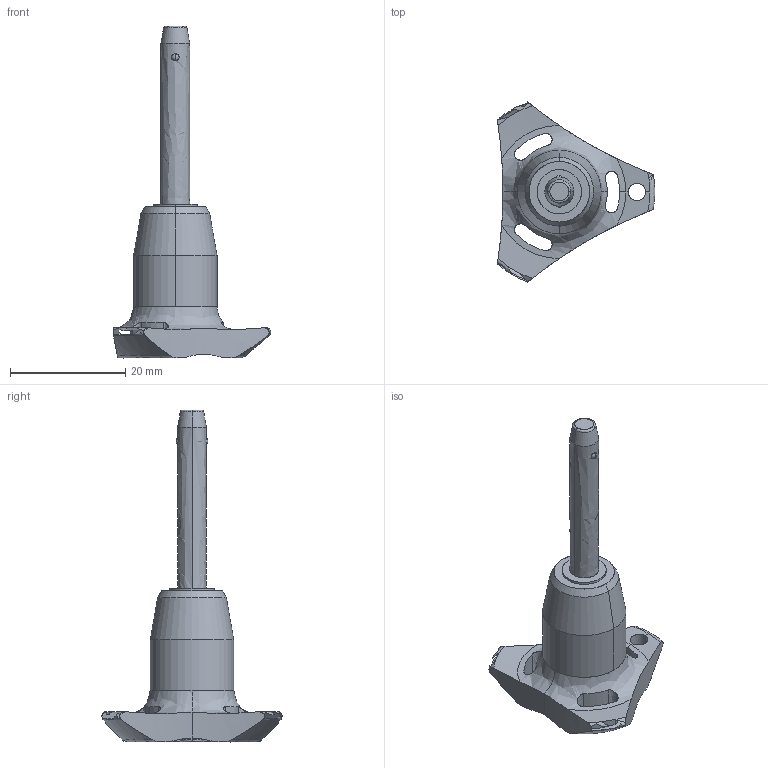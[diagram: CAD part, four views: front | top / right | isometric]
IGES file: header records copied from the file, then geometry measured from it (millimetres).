
Start section: SolidWorks IGES file using analytic representation for surfaces
Global section: file name: C:\Users\ianosborn\Desktop\QR1704_v2\QR1704_v2_20251111_IGES\QR1704.M05-025-S.igs; native system: SolidWorks 2019; preprocessor: SolidWorks 2019; author: IanOsborn; date: 251112.090736; units: millimetre
Bounding box: 27.4 x 31.31 x 57.7 mm (x, y, z)
Surface area: 2901.1 mm2 (no closed solid volume)
Topology: 0 solids, 0 shells, 66 faces, 1231 edges, 1212 vertices
Faces by surface type: revolution 50, bspline 16
